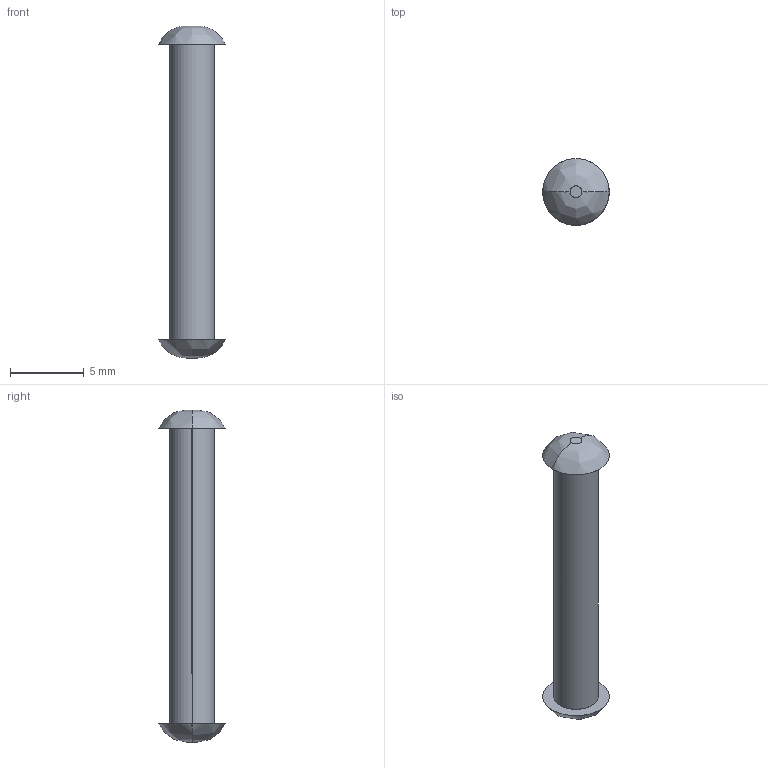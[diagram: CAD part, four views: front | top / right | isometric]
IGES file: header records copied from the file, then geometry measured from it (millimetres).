
Start section: SolidWorks IGES file using analytic representation for surfaces
Global section: file name: Z:\Mes documents\ATAO iges\Gamme CC\CC 404\404.030.00.IGS; native system: SolidWorks 2008; preprocessor: SolidWorks 2008; author: cbrechard; date: 110628.161550; units: millimetre
Bounding box: 4.5 x 4.5 x 22.5 mm (x, y, z)
Surface area: 250.4 mm2 (no closed solid volume)
Topology: 0 solids, 0 shells, 10 faces, 184 edges, 184 vertices
Faces by surface type: bspline 8, revolution 2
